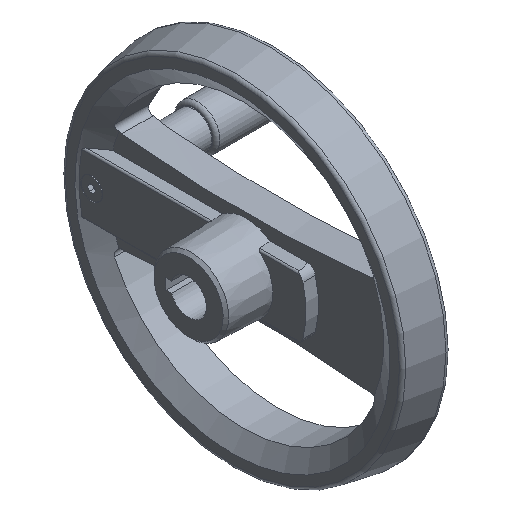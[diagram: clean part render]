
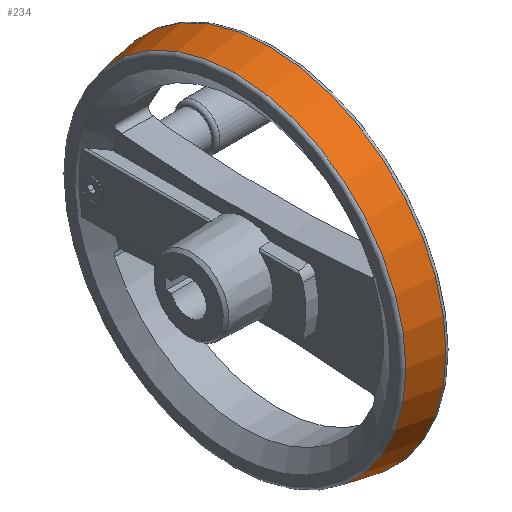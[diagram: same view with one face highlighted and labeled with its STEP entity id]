
A CAD part, isometric view. The second image highlights one B-rep face of the part: STEP entity #234.
In plain terms, the highlighted conical face has half-angle 9.986 degrees and reference radius 96.36 mm.
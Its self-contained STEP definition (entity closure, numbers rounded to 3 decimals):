
#234 = ADVANCED_FACE( '', ( #421, #422 ), #423, .T. );
#421 = FACE_OUTER_BOUND( '', #674, .T. );
#422 = FACE_BOUND( '', #675, .T. );
#423 = CONICAL_SURFACE( '', #676, 96.36, 0.174 );
#674 = EDGE_LOOP( '', ( #1284 ) );
#675 = EDGE_LOOP( '', ( #1285 ) );
#676 = AXIS2_PLACEMENT_3D( '', #1286, #1287, #1288 );
#1284 = ORIENTED_EDGE( '', *, *, #1758, .F. );
#1285 = ORIENTED_EDGE( '', *, *, #1759, .T. );
#1286 = CARTESIAN_POINT( '', ( 26.353, 0., 0. ) );
#1287 = DIRECTION( '', ( 1., 0., 0. ) );
#1288 = DIRECTION( '', ( 0., 0., -1. ) );
#1758 = EDGE_CURVE( '', #2127, #2127, #2128, .T. );
#1759 = EDGE_CURVE( '', #2129, #2129, #2130, .T. );
#2127 = VERTEX_POINT( '', #3035 );
#2128 = CIRCLE( '', #3036, 99.76 );
#2129 = VERTEX_POINT( '', #3037 );
#2130 = CIRCLE( '', #3038, 96.36 );
#3035 = CARTESIAN_POINT( '', ( 45.663, 0., -99.76 ) );
#3036 = AXIS2_PLACEMENT_3D( '', #3411, #3412, #3413 );
#3037 = CARTESIAN_POINT( '', ( 26.353, 0., -96.36 ) );
#3038 = AXIS2_PLACEMENT_3D( '', #3414, #3415, #3416 );
#3411 = CARTESIAN_POINT( '', ( 45.663, 0., 0. ) );
#3412 = DIRECTION( '', ( 1., 0., 0. ) );
#3413 = DIRECTION( '', ( 0., 0., -1. ) );
#3414 = CARTESIAN_POINT( '', ( 26.353, 0., 0. ) );
#3415 = DIRECTION( '', ( 1., 0., 0. ) );
#3416 = DIRECTION( '', ( 0., 0., -1. ) );
